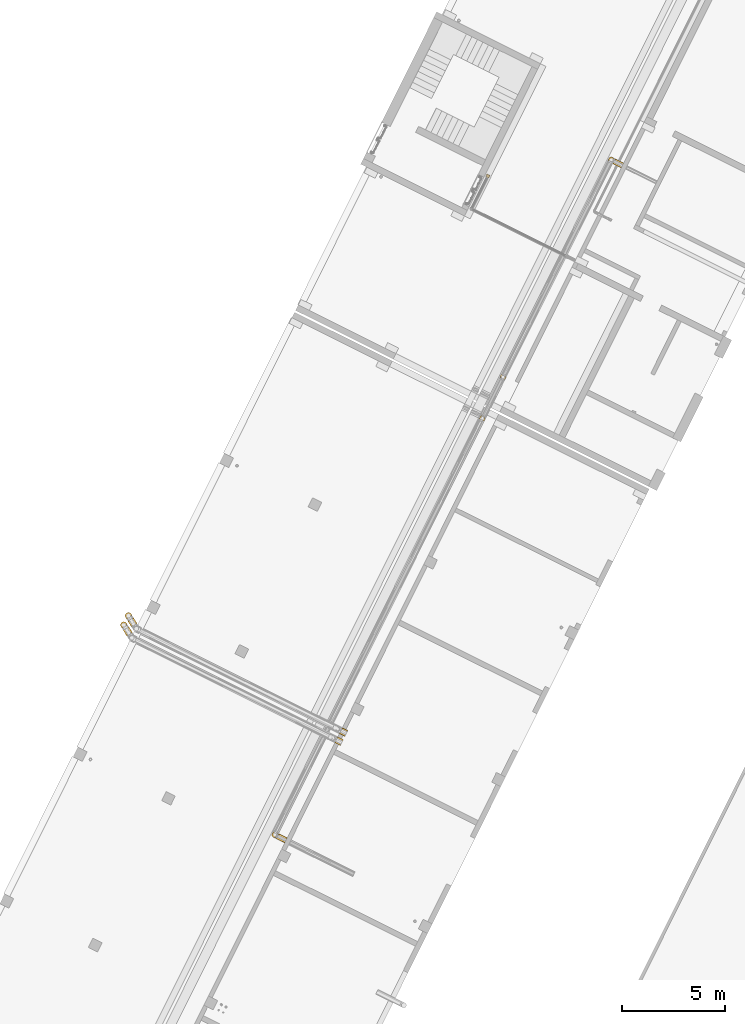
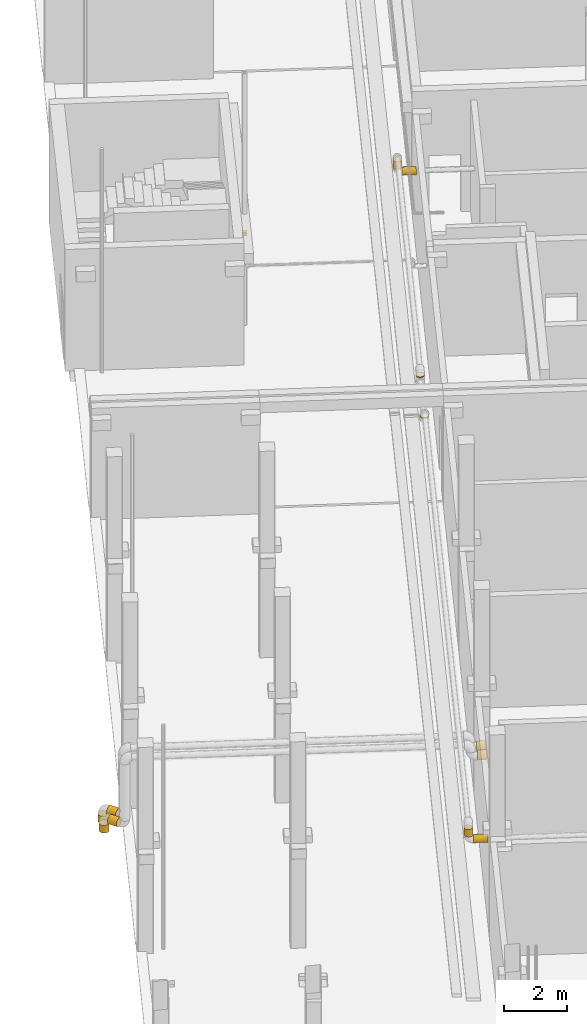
# One storey, part 34 of 91: 13 coverings.
"""IFC2X3 building model written with IfcOpenShell, lengths in metres."""

import ifcopenshell
import ifcopenshell.guid

model = None  # the IFC model being written
_history = None  # IfcOwnerHistory: only IFC2X3 demands one
_inside = {}  # id of a spatial element -> (the spatial element, [elements in it])
_under = {}  # id of a project, library or spatial element -> (it, [spatial elements below it])
_declared = {}  # id of a project -> (the project, [libraries it declares])
_typed = {}  # id of a type object -> (the type object, [elements of that type])
_made_of = {}  # id of a material, layer set ... -> (it, [elements and type objects made of it])


def new_model(schema):
    """Start an empty IFC model of exactly this schema.

    Asked for "IFC4X3", IfcOpenShell would pick the latest addendum, in which some entities
    have other attributes; the version numbers below select the first issue.
    IFC2X3 requires an IfcOwnerHistory on every rooted entity: one is made here for all.
    """
    global model, _history
    if schema == "IFC4X3":
        model = ifcopenshell.file(schema_version=(4, 3, 0, 0))
    else:
        model = ifcopenshell.file(schema=schema)
    _inside.clear()
    _under.clear()
    _declared.clear()
    _typed.clear()
    _made_of.clear()
    _history = None
    if model.schema == "IFC2X3":
        org = make("IfcOrganization", Name="unknown")
        user = make(
            "IfcPersonAndOrganization",
            ThePerson=make("IfcPerson", FamilyName="unknown"),
            TheOrganization=org,
        )
        app = make(
            "IfcApplication",
            ApplicationDeveloper=org,
            Version="unknown",
            ApplicationFullName="unknown",
            ApplicationIdentifier="unknown",
        )
        _history = make(
            "IfcOwnerHistory",
            OwningUser=user,
            OwningApplication=app,
            ChangeAction="ADDED",
            CreationDate=0,
        )
    return model


def make(cls, **values):
    """One entity of the class cls with the attributes given. An attribute that is None is left unset."""
    return model.create_entity(
        cls, **{name: value for name, value in values.items() if value is not None}
    )


def entity(cls, *values):
    """Any entity or typed value of the class cls, its attributes in the order of the schema. None: left unset."""
    e = model.create_entity(cls)
    for i, value in enumerate(values):
        if value is not None:
            e[i] = value
    return e


def rooted(cls, **values):
    """An entity with a GlobalId (a new one), such as an element, a storey or a relation."""
    return make(cls, GlobalId=ifcopenshell.guid.new(), OwnerHistory=_history, **values)


def si_unit(unit_type, name, prefix=None):
    """IfcSIUnit, for example si_unit("LENGTHUNIT", "METRE", prefix="MILLI")."""
    return make("IfcSIUnit", UnitType=unit_type, Prefix=prefix, Name=name)


def converted_unit(unit_type, name, factor, base, dimensions=None, offset=None):
    """IfcConversionBasedUnit, such as the inch: factor (a typed value) times the base unit."""
    return make(
        "IfcConversionBasedUnit"
        if offset is None
        else "IfcConversionBasedUnitWithOffset",
        ConversionOffset=offset,
        Dimensions=None
        if dimensions is None
        else entity("IfcDimensionalExponents", *dimensions),
        UnitType=unit_type,
        Name=name,
        ConversionFactor=make(
            "IfcMeasureWithUnit", ValueComponent=factor, UnitComponent=base
        ),
    )


def derived_unit(unit_type, elements):
    """IfcDerivedUnit: a product of units, each with its exponent."""
    return make(
        "IfcDerivedUnit",
        Elements=[
            make("IfcDerivedUnitElement", Unit=unit, Exponent=power)
            for unit, power in elements
        ],
        UnitType=unit_type,
    )


def assignment(units):
    """IfcUnitAssignment: the units of a project."""
    return None if units is None else make("IfcUnitAssignment", Units=units)


def point(xyz):
    """IfcCartesianPoint."""
    return None if xyz is None else make("IfcCartesianPoint", Coordinates=xyz)


def direction(xyz):
    """IfcDirection."""
    return None if xyz is None else make("IfcDirection", DirectionRatios=xyz)


def frame(location, z_axis=None, x_axis=None):
    """IfcAxis2Placement3D, a coordinate frame: its origin and axes. An axis left out is left unset."""
    return make(
        "IfcAxis2Placement3D",
        Location=point(location),
        Axis=direction(z_axis),
        RefDirection=direction(x_axis),
    )


def frame_2d(location, x_axis=None):
    """IfcAxis2Placement2D, a coordinate frame in the plane: its origin and x axis."""
    return make(
        "IfcAxis2Placement2D", Location=point(location), RefDirection=direction(x_axis)
    )


def origin():
    """The frame at (0, 0, 0) with its axes left unset."""
    return frame((0.0, 0.0, 0.0))


def origin_2d_with_axis():
    """The frame at (0, 0) in the plane with the x axis (1, 0) written out."""
    return frame_2d((0.0, 0.0), x_axis=(1.0, 0.0))


def place(relative_to, where):
    """IfcLocalPlacement: puts the frame where relative to a parent placement (None: the world)."""
    return make(
        "IfcLocalPlacement", PlacementRelTo=relative_to, RelativePlacement=where
    )


def context(
    kind, dimensions, precision=None, world=None, true_north=None, identifier=None
):
    """IfcGeometricRepresentationContext, for example the 3D "Model" context."""
    return make(
        "IfcGeometricRepresentationContext",
        ContextIdentifier=identifier,
        ContextType=kind,
        CoordinateSpaceDimension=dimensions,
        Precision=precision,
        WorldCoordinateSystem=world,
        TrueNorth=true_north,
    )


def subcontext(parent, identifier, kind, view, scale=None):
    """IfcGeometricRepresentationSubContext, for example "Body" below "Model"."""
    return make(
        "IfcGeometricRepresentationSubContext",
        ContextIdentifier=identifier,
        ContextType=kind,
        ParentContext=parent,
        TargetScale=scale,
        TargetView=view,
    )


def project(units=None, contexts=None):
    """IfcProject with its units and contexts."""
    return rooted(
        "IfcProject",
        Name="project",
        RepresentationContexts=contexts,
        UnitsInContext=assignment(units),
    )


def spatial(cls, under=None, at=None, **own):
    """A site, building, storey or space (cls), placed at a placement, below another one or the project."""
    s = rooted(cls, ObjectPlacement=at, **own)
    if under is not None:
        _under.setdefault(under.id(), (under, []))[1].append(s)
    return s


def profile(cls, at=None, kind="AREA", **sizes):
    """A parametric profile (cls). Its sizes go by their IFC names, for example OverallWidth=200.0."""
    return make(cls, ProfileType=kind, Position=at, **sizes)


def rectangle(**sizes):
    """IfcRectangleProfileDef."""
    return profile("IfcRectangleProfileDef", **sizes)


def circle(**sizes):
    """IfcCircleProfileDef."""
    return profile("IfcCircleProfileDef", **sizes)


def extrude(swept, where, along, depth):
    """IfcExtrudedAreaSolid: the profile swept, set in the frame where, extruded along a direction by depth."""
    return make(
        "IfcExtrudedAreaSolid",
        SweptArea=swept,
        Position=where,
        ExtrudedDirection=direction(along),
        Depth=depth,
    )


def shape(context_of_items, identifier, shape_type, items):
    """IfcShapeRepresentation: the items that make up one representation, for example the "Body"."""
    return make(
        "IfcShapeRepresentation",
        ContextOfItems=context_of_items,
        RepresentationIdentifier=identifier,
        RepresentationType=shape_type,
        Items=items,
    )


def made_of(thing, what):
    """Note that an element or type object is made of a material, layer set ...; save() writes the relation."""
    if what is not None:
        _made_of.setdefault(what.id(), (what, []))[1].append(thing)
    return thing


def element(
    cls,
    number,
    at=None,
    inside=None,
    cuts=None,
    type_object=None,
    material=None,
    context=None,
    identifier="Body",
    shape_type=None,
    held_by="IfcProductDefinitionShape",
    body=None,
    shapes=None,
    **own,
):
    """One element of the class cls, such as IfcWall. Its Tag is "e" and its number.

    at: its placement. inside: the storey or other place that contains it. cuts: it is an
    opening in that element (IfcRelVoidsElement). A single representation is given by context,
    identifier, shape_type and body (its items); several are given by shapes. held_by: the class
    of the entity that holds the representations. save() writes the other relations.
    """
    e = rooted(cls, Tag="e%d" % number, ObjectPlacement=at, **own)
    if body is not None:
        shapes = [shape(context, identifier, shape_type, body)]
    if shapes is not None:
        e.Representation = make(held_by, Representations=shapes)
    if inside is not None:
        _inside.setdefault(inside.id(), (inside, []))[1].append(e)
    if cuts is not None:
        rooted(
            "IfcRelVoidsElement", RelatingBuildingElement=cuts, RelatedOpeningElement=e
        )
    if type_object is not None:
        _typed.setdefault(type_object.id(), (type_object, []))[1].append(e)
    return made_of(e, material)


def aggregate(whole, parts):
    """IfcRelAggregates: a whole, such as a stair, and the parts it consists of."""
    return rooted("IfcRelAggregates", RelatingObject=whole, RelatedObjects=parts)


def save(model, path):
    """Write the relations noted so far, then the file.

    IfcRelAggregates (storeys below a building ...), IfcRelContainedInSpatialStructure (elements
    in a storey), IfcRelDefinesByType, IfcRelAssociatesMaterial and IfcRelDeclares: one each for
    every whole, place, type object, material and project.
    """
    for whole, parts in _under.values():
        aggregate(whole, parts)
    for where, things in _inside.values():
        rooted(
            "IfcRelContainedInSpatialStructure",
            RelatedElements=things,
            RelatingStructure=where,
        )
    for kind, things in _typed.values():
        rooted("IfcRelDefinesByType", RelatedObjects=things, RelatingType=kind)
    for what, things in _made_of.values():
        rooted("IfcRelAssociatesMaterial", RelatedObjects=things, RelatingMaterial=what)
    for by, libraries in _declared.values():
        rooted("IfcRelDeclares", RelatingContext=by, RelatedDefinitions=libraries)
    model.write(path)


model = new_model("IFC2X3")

# Units and contexts
model_context = context("Model", 3, precision=1e-05, world=origin(), true_north=direction((0.894925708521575, 0.446215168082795)))
context_of_model = context(None, 3, precision=1e-05, world=origin(), true_north=direction((0.894925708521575, 0.446215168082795)))
body_context = subcontext(model_context, "Body", "Model", "MODEL_VIEW")
ifc_project = project(units=[si_unit("LENGTHUNIT", "METRE"), si_unit("AREAUNIT", "SQUARE_METRE"), si_unit("VOLUMEUNIT", "CUBIC_METRE"), converted_unit("PLANEANGLEUNIT", "DEGREE", entity("IfcRatioMeasure", 0.0174532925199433), si_unit("PLANEANGLEUNIT", "RADIAN"), dimensions=[0, 0, 0, 0, 0, 0, 0]), si_unit("MASSUNIT", "GRAM", prefix="KILO"), si_unit("TIMEUNIT", "SECOND"), si_unit("FREQUENCYUNIT", "HERTZ"), si_unit("THERMODYNAMICTEMPERATUREUNIT", "DEGREE_CELSIUS"), derived_unit("THERMALTRANSMITTANCEUNIT", [(si_unit("MASSUNIT", "GRAM", prefix="KILO"), 1), (si_unit("THERMODYNAMICTEMPERATUREUNIT", "KELVIN"), -1), (si_unit("TIMEUNIT", "SECOND"), -3)]), derived_unit("VOLUMETRICFLOWRATEUNIT", [(si_unit("LENGTHUNIT", "METRE"), 3), (si_unit("TIMEUNIT", "SECOND"), -1)]), si_unit("ELECTRICCURRENTUNIT", "AMPERE"), si_unit("ELECTRICVOLTAGEUNIT", "VOLT"), si_unit("POWERUNIT", "WATT"), si_unit("FORCEUNIT", "NEWTON", prefix="KILO"), si_unit("ILLUMINANCEUNIT", "LUX"), si_unit("LUMINOUSFLUXUNIT", "LUMEN"), si_unit("LUMINOUSINTENSITYUNIT", "CANDELA"), si_unit("PRESSUREUNIT", "PASCAL")], contexts=[model_context, context_of_model])

# Site, building, storey
site_placement = place(None, frame((218.228324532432, 584.720189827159, 0.0), z_axis=(0.0, 0.0, 1.0), x_axis=(0.446215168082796, 0.894925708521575, 0.0)))
site = spatial("IfcSite", under=ifc_project, at=site_placement, Name="Default", CompositionType="ELEMENT")
building_placement = place(site_placement, origin())
building = spatial("IfcBuilding", under=site, at=building_placement, CompositionType="ELEMENT")
storey_placement = place(building_placement, origin())
storey = spatial("IfcBuildingStorey", under=building, at=storey_placement, Name="0 - Piano Terra", CompositionType="ELEMENT", Elevation=0.0)

# Coverings
covering_1_placement = place(storey_placement, frame((-30.1726148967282, 6.22595650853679, 0.338867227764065)))
element("IfcCovering", 1, at=covering_1_placement, inside=storey, Name="Isolamento tubazione:Default", ObjectType="Isolamento tubazione:Default", PredefinedType="INSULATION", context=body_context, shape_type="SweptSolid", body=[
    extrude(circle(Radius=0.1595375, at=frame_2d((-5.69972309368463e-16, -1.24529719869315e-14), x_axis=(1.0, 0.0))), frame((0.137244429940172, 0.0855686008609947, 0.161132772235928), z_axis=(0.52635479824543, 0.850265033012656, 0.0), x_axis=(0.850265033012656, -0.52635479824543, 0.0)), (0.0, 0.0, 1.0), 0.334945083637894),
])
covering_2_placement = place(storey_placement, frame((-30.3033532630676, -5.30174555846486, 2.5088672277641)))
element("IfcCovering", 2, at=covering_2_placement, inside=storey, Name="Isolamento tubazione:Default", ObjectType="Isolamento tubazione:Default", PredefinedType="INSULATION", context=body_context, shape_type="SweptSolid", body=[
    extrude(circle(Radius=0.1595375, at=origin_2d_with_axis()), frame((0.161132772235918, 0.0, 0.161132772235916), z_axis=(0.0, 1.0, 0.0), x_axis=(1.0, 0.0, 0.0)), (0.0, 0.0, 1.0), 0.299999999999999),
])
covering_3_placement = place(storey_placement, frame((-29.9133532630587, 6.60778823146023, 0.0)))
element("IfcCovering", 3, at=covering_3_placement, inside=storey, Name="Isolamento tubazione:Default", ObjectType="Isolamento tubazione:Default", PredefinedType="INSULATION", context=body_context, shape_type="SweptSolid", body=[
    extrude(circle(Radius=0.1595375, at=frame_2d((4.33146851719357e-14, -1.40772726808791e-14), x_axis=(1.0, 0.0))), frame((0.161132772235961, 0.161132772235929, 0.0)), (0.0, 0.0, 1.0), 0.297000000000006),
])
covering_4_placement = place(storey_placement, frame((-30.4133532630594, 6.60778823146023, 0.0)))
element("IfcCovering", 4, at=covering_4_placement, inside=storey, Name="Isolamento tubazione:Default", ObjectType="Isolamento tubazione:Default", PredefinedType="INSULATION", context=body_context, shape_type="SweptSolid", body=[
    extrude(circle(Radius=0.1595375, at=frame_2d((4.76461536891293e-14, -1.40772726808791e-14), x_axis=(1.0, 0.0))), frame((0.161132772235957, 0.161132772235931, 0.0)), (0.0, 0.0, 1.0), 0.297000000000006),
])
covering_5_placement = place(storey_placement, frame((-30.6726148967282, 6.22595650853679, 0.338867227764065)))
element("IfcCovering", 5, at=covering_5_placement, inside=storey, Name="Isolamento tubazione:Default", ObjectType="Isolamento tubazione:Default", PredefinedType="INSULATION", context=body_context, shape_type="SweptSolid", body=[
    extrude(circle(Radius=0.1595375, at=frame_2d((3.11292391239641e-15, -1.24529719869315e-14), x_axis=(1.0, 0.0))), frame((0.137244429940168, 0.0855686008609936, 0.161132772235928), z_axis=(0.52635479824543, 0.850265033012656, 0.0), x_axis=(0.850265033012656, -0.52635479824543, 0.0)), (0.0, 0.0, 1.0), 0.334945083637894),
])
covering_6_placement = place(storey_placement, frame((-30.8033532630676, -5.30174555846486, 2.5088672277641)))
element("IfcCovering", 6, at=covering_6_placement, inside=storey, Name="Isolamento tubazione:Default", ObjectType="Isolamento tubazione:Default", PredefinedType="INSULATION", context=body_context, shape_type="SweptSolid", body=[
    extrude(circle(Radius=0.1595375, at=origin_2d_with_axis()), frame((0.161132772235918, 0.0, 0.161132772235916), z_axis=(0.0, 1.0, 0.0), x_axis=(1.0, 0.0, 0.0)), (0.0, 0.0, 1.0), 0.299999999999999),
])
covering_7_placement = place(storey_placement, frame((0.521569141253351, -4.98336339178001, 3.16426722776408)))
element("IfcCovering", 7, at=covering_7_placement, inside=storey, Name="Isolamento tubazione:Default", ObjectType="Isolamento tubazione:Default", PredefinedType="INSULATION", context=body_context, shape_type="SweptSolid", body=[
    extrude(circle(Radius=0.1341375, at=frame_2d((4.06075173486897e-16, 0.0), x_axis=(1.0, 0.0))), frame((0.135732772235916, 0.0, 0.135732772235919), z_axis=(0.0, 1.0, 0.0), x_axis=(-1.0, 0.0, 0.0)), (0.0, 0.0, 1.0), 0.446146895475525),
])
covering_8_placement = place(storey_placement, frame((-36.2585851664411, -4.52094926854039, 3.452)))
element("IfcCovering", 8, at=covering_8_placement, inside=storey, Name="Isolamento tubazione:Default", ObjectType="Isolamento tubazione:Default", PredefinedType="INSULATION", context=body_context, shape_type="SweptSolid", body=[
    extrude(circle(Radius=0.1341375, at=origin_2d_with_axis()), frame((0.135732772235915, 0.135732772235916, 0.0)), (0.0, 0.0, 1.0), 0.296000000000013),
])
covering_9_placement = place(storey_placement, frame((-13.5648067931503, -4.52094926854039, 3.70199999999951)))
element("IfcCovering", 9, at=covering_9_placement, inside=storey, Name="Isolamento tubazione:Default", ObjectType="Isolamento tubazione:Default", PredefinedType="INSULATION", context=body_context, shape_type="SweptSolid", body=[
    extrude(circle(Radius=0.1341375, at=origin_2d_with_axis()), frame((0.135732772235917, 0.135732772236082, 0.0), z_axis=(0.0, 0.0, 1.0), x_axis=(0.0, -1.0, 0.0)), (0.0, 0.0, 1.0), 0.0460000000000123),
])
covering_10_placement = place(storey_placement, frame((-11.3148067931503, -4.52094926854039, 3.70199999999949)))
element("IfcCovering", 10, at=covering_10_placement, inside=storey, Name="Isolamento tubazione:Default", ObjectType="Isolamento tubazione:Default", PredefinedType="INSULATION", context=body_context, shape_type="SweptSolid", body=[
    extrude(circle(Radius=0.1341375, at=frame_2d((-1.29944055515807e-14, -8.60879367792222e-14), x_axis=(1.0, 0.0))), frame((0.13573277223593, 0.135732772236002, 0.0)), (0.0, 0.0, 1.0), 0.0459999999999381),
])
covering_11_placement = place(storey_placement, frame((0.521569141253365, -4.52094926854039, 3.452)))
element("IfcCovering", 11, at=covering_11_placement, inside=storey, Name="Isolamento tubazione:Default", ObjectType="Isolamento tubazione:Default", PredefinedType="INSULATION", context=body_context, shape_type="SweptSolid", body=[
    extrude(circle(Radius=0.1341375, at=frame_2d((5.41433564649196e-16, 0.0), x_axis=(1.0, 0.0))), frame((0.135732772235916, 0.135732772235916, 0.0), z_axis=(0.0, 0.0, 1.0), x_axis=(0.0, -1.0, 0.0)), (0.0, 0.0, 1.0), 0.295999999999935),
])
covering_12_placement = place(storey_placement, frame((-36.2585851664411, -5.00107899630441, 3.16426722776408)))
element("IfcCovering", 12, at=covering_12_placement, inside=storey, Name="Isolamento tubazione:Default", ObjectType="Isolamento tubazione:Default", PredefinedType="INSULATION", context=body_context, shape_type="SweptSolid", body=[
    extrude(circle(Radius=0.1341375, at=origin_2d_with_axis()), frame((0.135732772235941, 0.0, 0.135732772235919), z_axis=(0.0, 1.0, 0.0), x_axis=(-1.0, 0.0, 0.0)), (0.0, 0.0, 1.0), 0.463862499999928),
])
covering_13_placement = place(storey_placement, frame((-2.80978502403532, 0.568771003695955, 3.43599939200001)))
element("IfcCovering", 13, at=covering_13_placement, inside=storey, Name="Isolamento tubazione:Default", ObjectType="Isolamento tubazione:Default", PredefinedType="INSULATION", context=body_context, shape_type="SweptSolid", body=[
    extrude(rectangle(XDim=0.144150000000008, YDim=0.160300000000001, at=origin_2d_with_axis()), frame((0.0720750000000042, 0.0801500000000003, 0.0)), (0.0, 0.0, 1.0), 0.127999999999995),
])

save(model, "model.ifc")
